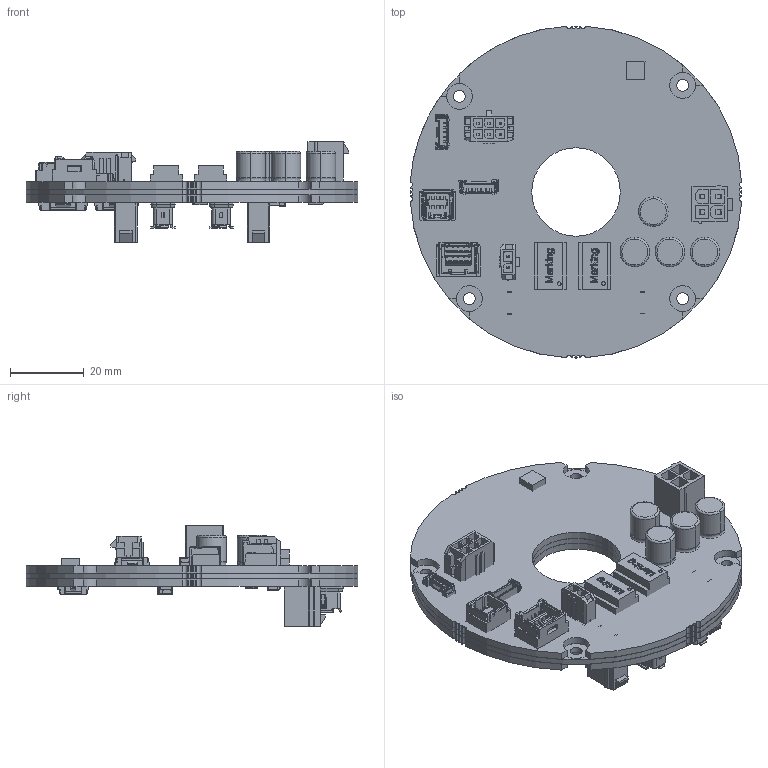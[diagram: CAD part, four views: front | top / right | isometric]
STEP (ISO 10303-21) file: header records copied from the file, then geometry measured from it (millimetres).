
FILE_DESCRIPTION((''),'2;1');
FILE_NAME('EPOS4_DISK_6010_688777_ETHERCAT_ASM','2022-01-07T12:13:37',('MMAGODEM'),(''),'CREO PARAMETRIC BY PTC INC, 2020342','CREO PARAMETRIC BY PTC INC, 2020342','');
FILE_SCHEMA(('CONFIG_CONTROL_DESIGN','SHAPE_APPEARANCE_LAYERS_GROUPS'));
Products named in the file (62): EPOS4_DISK_6010_ETHERCAT_PCB_AF3; EPOS4_DISK_6010_ETHERCAT_LOETSB_AF6; EPOS4_DISK_6010_ETHERCAT_LOETST_AF7; PRT0003; 8_SIZE_CODE_F00; PRT0004; 5054330871_AF3; 5055680571_3_1; 5055680571_3_ASM; 5055680571_ASM; 5055680671_3_1_2_1; 5055680671_3_1_2_ASM; 5055680671__ASM; 09452812562_100759045MOD000C_1_; 5055680471_3_1; 5055680471_3_ASM; 5055680471_ASM; 5055680871_3_1; 5055680871_3_ASM; 5055680871_ASM; 5055680771_3_1; 5055680771_3_ASM; 5055680771_ASM; IC; DROSSEL_1; 1206_C; SOD-123F; SO-8EP; QFN50P900X900X100_HS-65N; QFN50P500X500X60-32N_ST_UFQFPN3; QFN50P700X700X100-48N_MPA; BSC040N08NS5; LED_BASE; LED_GREEN; LED0603_GREEN_ASM; LED_RED; LED0603_RED_ASM; LQH2HPN220MJR; PRT0006; PESD2IVN24-UX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
Assembly tree (82 placements, depth 4):
  EPOS4_DISK_6010_688777_ETHERCAT_ASM
    EPOS4_DISK_6010_ETHERCAT_PCB_AF3
    EPOS4_DISK_6010_ETHERCAT_LOETSB_AF6
    EPOS4_DISK_6010_ETHERCAT_LOETST_AF7
    PRT0003  x2
    8_SIZE_CODE_F00  x3
    PRT0004
    5054330871_AF3
    5055680571_ASM
      5055680571_3_ASM
        5055680571_3_1
    5055680671__ASM
      5055680671_3_1_2_ASM
        5055680671_3_1_2_1
    09452812562_100759045MOD000C_1_  x2
    5055680471_ASM
      5055680471_3_ASM
        5055680471_3_1
    5055680871_ASM
      5055680871_3_ASM
        5055680871_3_1
    5055680771_ASM
      5055680771_3_ASM
        5055680771_3_1
    IC
    DROSSEL_1
    1206_C  x4
    SOD-123F
    SO-8EP
    QFN50P900X900X100_HS-65N
    QFN50P500X500X60-32N_ST_UFQFPN3  x2
    QFN50P700X700X100-48N_MPA
    BSC040N08NS5  x6
    LED0603_GREEN_ASM  x4
      LED_BASE
      LED_GREEN
    LED0603_RED_ASM  x2
      LED_BASE
      LED_RED
    LQH2HPN220MJR
    PRT0006  x2
    PESD2IVN24-UX  x2
    DROSSEL_KL
    A6H-6102
    436500215
    503154-1090_ASM
    39281043_TIN
    430450618_TIN
    039281023_BO_ASM  x2
    EXCLUSION_ZONE_TOP_AF4
    EXCLUSION_ZONE_BOT_AF3
    SMBJ60A
    0456025_ER_ASM
      0463020_ER_ASM
        BOSS-EXTRUDE2
        MIRROR2
        FILLET1
    SMA60_ASM
      SMBJ16A_ASM
        CUT-EXTRUDE2
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Bounding box: 90 x 90 x 27.2 mm (x, y, z)
Volume: 39094.7 mm3; surface area: 74286.9 mm2
Topology: 78 solids, 83 shells, 7342 faces, 20334 edges, 13271 vertices
Faces by surface type: plane 5448, cylinder 1239, extrusion 445, sphere 86, cone 62, torus 56, bspline 6
Entity records: 258839 total; most frequent: CARTESIAN_POINT 38761, ORIENTED_EDGE 33046, DIRECTION 28960, PRESENTATION_STYLE_ASSIGNMENT 19198, STYLED_ITEM 18355, CURVE_STYLE 16934, EDGE_CURVE 16523, VECTOR 14090
